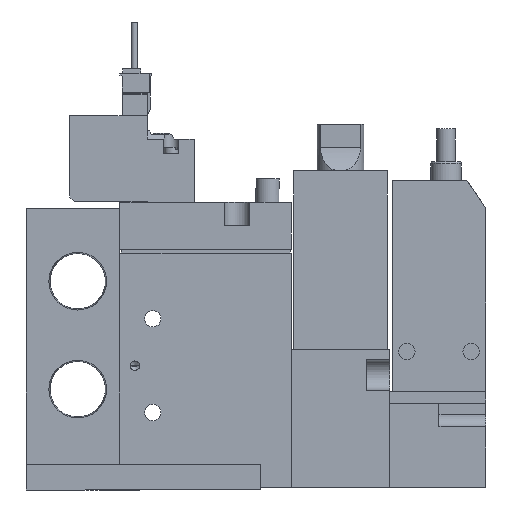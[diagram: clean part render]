
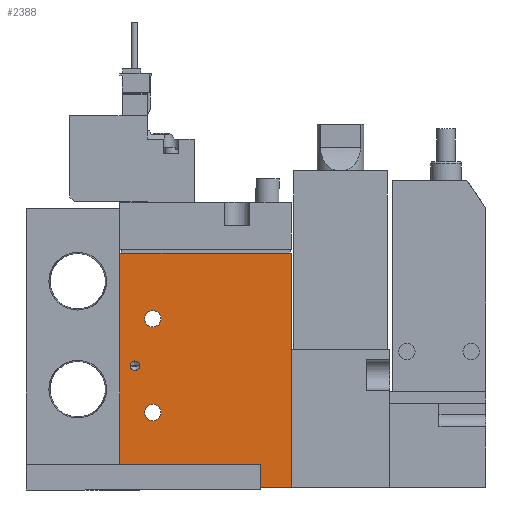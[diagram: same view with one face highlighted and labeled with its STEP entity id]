
A CAD part, left-side view. The second image highlights one B-rep face of the part: STEP entity #2388.
In plain terms, the highlighted planar face has unit normal (-1, 0, 0) as drawn and (1, 0, 0) by its records, which use the part's own axes.
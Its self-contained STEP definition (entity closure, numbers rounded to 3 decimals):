
#2388=ADVANCED_FACE('',(#3588,#3589,#3590,#3591),#3592,.F.);
#3588=FACE_BOUND('',#6245,.T.);
#3589=FACE_BOUND('',#6246,.T.);
#3590=FACE_BOUND('',#6247,.T.);
#3591=FACE_OUTER_BOUND('',#6248,.T.);
#3592=PLANE('',#6249);
#6245=EDGE_LOOP('',(#9042));
#6246=EDGE_LOOP('',(#9043));
#6247=EDGE_LOOP('',(#9044));
#6248=EDGE_LOOP('',(#9045,#9046,#9047,#9048));
#6249=AXIS2_PLACEMENT_3D('',#9049,#9050,#9051);
#9042=ORIENTED_EDGE('',*,*,#17871,.F.);
#9043=ORIENTED_EDGE('',*,*,#17879,.T.);
#9044=ORIENTED_EDGE('',*,*,#17878,.T.);
#9045=ORIENTED_EDGE('',*,*,#17876,.T.);
#9046=ORIENTED_EDGE('',*,*,#17874,.F.);
#9047=ORIENTED_EDGE('',*,*,#17875,.F.);
#9048=ORIENTED_EDGE('',*,*,#17861,.T.);
#9049=CARTESIAN_POINT('',(8.5,-19.444,50.0));
#9050=DIRECTION('',(-1.0,0.0,0.0));
#9051=DIRECTION('',(0.0,0.0,1.0));
#17861=EDGE_CURVE('',#20673,#20671,#20674,.T.);
#17871=EDGE_CURVE('',#20690,#20690,#20691,.T.);
#17874=EDGE_CURVE('',#20694,#20692,#20696,.T.);
#17875=EDGE_CURVE('',#20673,#20694,#20697,.T.);
#17876=EDGE_CURVE('',#20671,#20692,#20698,.T.);
#17878=EDGE_CURVE('',#20699,#20699,#20700,.T.);
#17879=EDGE_CURVE('',#20701,#20701,#20702,.T.);
#20671=VERTEX_POINT('',#25459);
#20673=VERTEX_POINT('',#25462);
#20674=LINE('',#25463,#25464);
#20690=VERTEX_POINT('',#25481);
#20691=CIRCLE('',#25482,1.0);
#20692=VERTEX_POINT('',#25483);
#20694=VERTEX_POINT('',#25486);
#20696=LINE('',#25489,#25490);
#20697=LINE('',#25491,#25492);
#20698=LINE('',#25493,#25494);
#20699=VERTEX_POINT('',#25495);
#20700=CIRCLE('',#25496,1.75);
#20701=VERTEX_POINT('',#25497);
#20702=CIRCLE('',#25498,1.75);
#25459=CARTESIAN_POINT('',(8.5,-19.444,0.0));
#25462=CARTESIAN_POINT('',(8.5,-19.444,50.0));
#25463=CARTESIAN_POINT('',(8.5,-19.444,50.0));
#25464=VECTOR('',#32461,1.0);
#25481=CARTESIAN_POINT('',(8.5,-17.244,26.0));
#25482=AXIS2_PLACEMENT_3D('',#32484,#32485,#32486);
#25483=CARTESIAN_POINT('',(8.5,17.056,0.0));
#25486=CARTESIAN_POINT('',(8.5,17.056,50.0));
#25489=CARTESIAN_POINT('',(8.5,17.056,50.0));
#25490=VECTOR('',#32489,1.0);
#25491=CARTESIAN_POINT('',(8.5,-19.444,50.0));
#25492=VECTOR('',#32490,1.0);
#25493=CARTESIAN_POINT('',(8.5,-19.444,0.0));
#25494=VECTOR('',#32491,1.0);
#25495=CARTESIAN_POINT('',(8.5,-10.694,16.0));
#25496=AXIS2_PLACEMENT_3D('',#32492,#32493,#32494);
#25497=CARTESIAN_POINT('',(8.5,-10.694,36.0));
#25498=AXIS2_PLACEMENT_3D('',#32495,#32496,#32497);
#32461=DIRECTION('',(0.0,0.0,-1.0));
#32484=CARTESIAN_POINT('',(8.5,-16.244,26.0));
#32485=DIRECTION('',(1.0,0.,0.0));
#32486=DIRECTION('',(0.,-1.0,0.0));
#32489=DIRECTION('',(0.0,0.0,-1.0));
#32490=DIRECTION('',(0.0,1.0,0.0));
#32491=DIRECTION('',(0.0,1.0,0.0));
#32492=CARTESIAN_POINT('',(8.5,-12.444,16.0));
#32493=DIRECTION('',(-1.0,0.0,0.0));
#32494=DIRECTION('',(0.0,1.0,0.0));
#32495=CARTESIAN_POINT('',(8.5,-12.444,36.0));
#32496=DIRECTION('',(-1.0,0.0,0.0));
#32497=DIRECTION('',(0.0,1.0,0.0));
